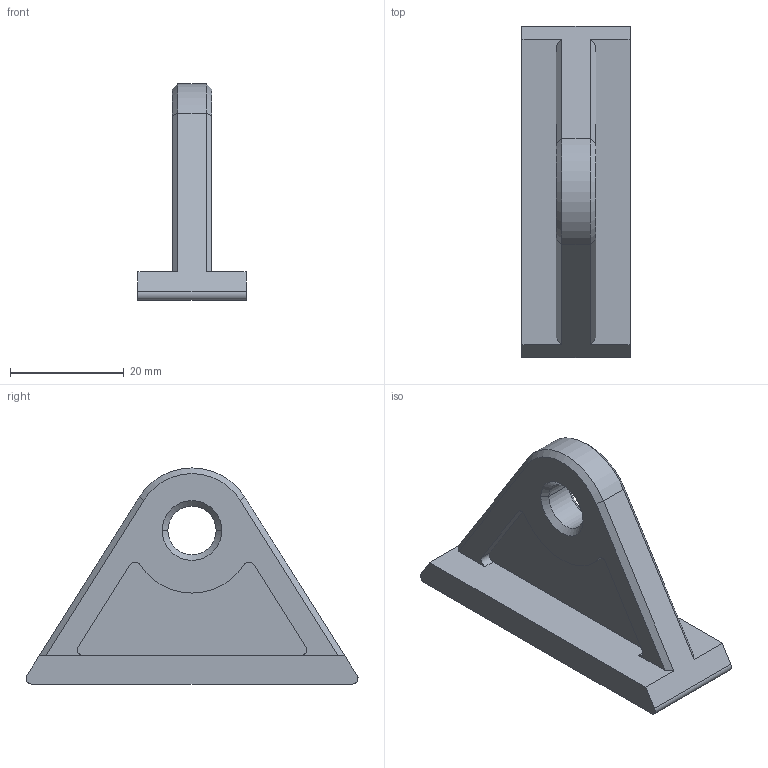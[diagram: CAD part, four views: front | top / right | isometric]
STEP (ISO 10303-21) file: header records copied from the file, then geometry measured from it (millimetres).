
FILE_DESCRIPTION((''),'2;1');
FILE_NAME('ACOS10','2002-12-27T',('Lipro doo'),('Lipro d.o.o.'),'PRO/ENGINEER BY PARAMETRIC TECHNOLOGY CORPORATION, 2001150','PRO/ENGINEER BY PARAMETRIC TECHNOLOGY CORPORATION, 2001150','');
FILE_SCHEMA(('CONFIG_CONTROL_DESIGN'));
Length unit declared in the file: millimetre
Products named in the file (1): ACOS10
Bounding box: 19 x 58.37 x 38 mm (x, y, z)
Volume: 10610.2 mm3; surface area: 5636.6 mm2
Topology: 1 solids, 1 shells, 40 faces, 106 edges, 68 vertices
Faces by surface type: plane 19, cylinder 15, cone 6
Entity records: 1284 total; most frequent: DIRECTION 222, CARTESIAN_POINT 214, ORIENTED_EDGE 212, EDGE_CURVE 106, AXIS2_PLACEMENT_3D 76, VECTOR 70, LINE 70, VERTEX_POINT 68
